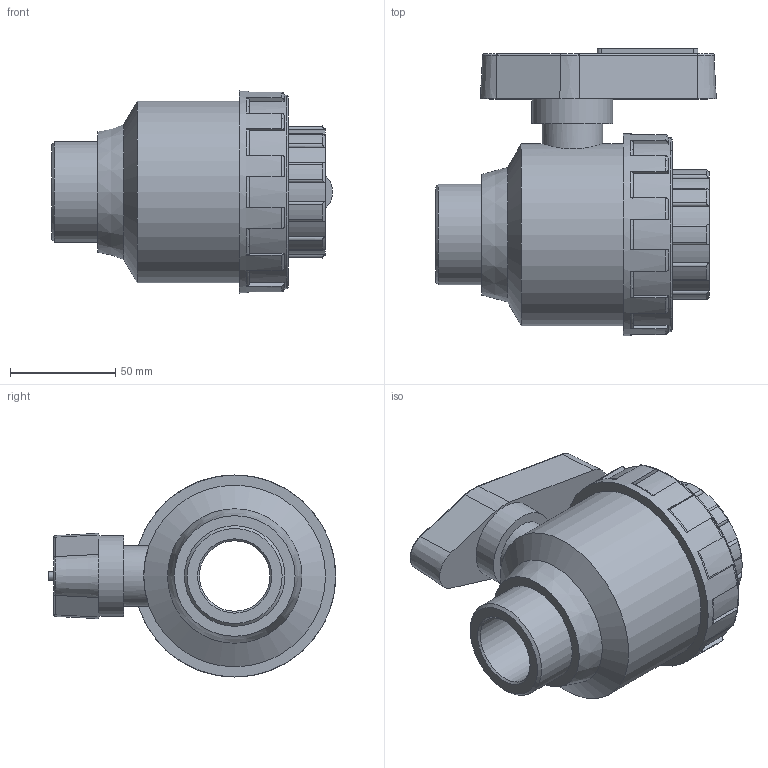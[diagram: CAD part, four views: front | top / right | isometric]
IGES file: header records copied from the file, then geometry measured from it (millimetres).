
Global section: file name: 11361015.ipt; native system: Autodesk Inventor 2015; preprocessor: unknown; author: KIM; date: 20171207.170507; units: millimetre
Bounding box: 133.49 x 136.58 x 96 mm (x, y, z)
Volume: 548021.9 mm3; surface area: 70084.3 mm2
Topology: 1 solids, 1 shells, 168 faces, 450 edges, 292 vertices
Faces by surface type: plane 65, cylinder 52, revolution 34, cone 17
Full cylindrical faces by diameter (mm): 28.8 x1, 38.4 x1, 47.803 x1, 86.4 x1, 92.16 x1, 96 x1
